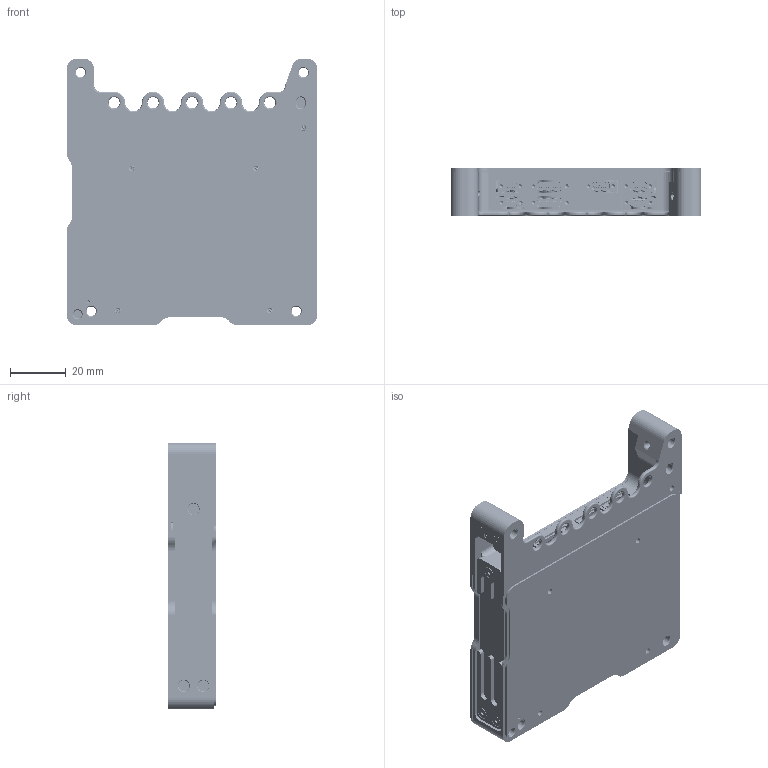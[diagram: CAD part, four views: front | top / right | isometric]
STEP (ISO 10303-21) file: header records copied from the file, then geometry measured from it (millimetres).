
FILE_DESCRIPTION (( 'STEP AP214' ), '1' );
FILE_NAME ('105602_External_Rev A.STEP', '2024-01-26T12:55:55', ( '' ), ( '' ), 'SwSTEP 2.0', 'SolidWorks 2021', '' );
FILE_SCHEMA (( 'AUTOMOTIVE_DESIGN' ));
Length unit declared in the file: millimetre
Products named in the file (15): 104815_Threads; Nano-D 9pin socket; 104584_Detailed; 104611_HeliCoil-Plus-41300020005-Colly; Nano-D 15pin plug; 104429_Marked; 104670_79914___2__6-mattssons; 104675; Nano-D 15pin socket; Nano-D 25pin socket; 105602_External_Rev A; 105601; 104436; 104433_Clean; 104425
Assembly tree (35 placements, depth 4):
  105602_External_Rev A
    104675
      104429_Marked
        104436
        104611_HeliCoil-Plus-41300020005-Colly  x9
      104425
        Nano-D 25pin socket  x2
        Nano-D 15pin socket  x2
        Nano-D 15pin plug
        Nano-D 9pin socket  x2
      104584_Detailed  x4
      104433_Clean
      104815_Threads  x3
    104433_Clean
    104670_79914___2__6-mattssons  x5
    105601
Bounding box: 90.17 x 17.2 x 95.89 mm (x, y, z)
Volume: 32700 mm3; surface area: 51968.6 mm2
Topology: 32 solids, 45 shells, 6250 faces, 16357 edges, 10715 vertices
Faces by surface type: plane 2803, cylinder 1378, bspline 1116, cone 529, torus 424
Full cylindrical faces by diameter (mm): 0.254 x354, 0.305 x98, 0.457 x98, 0.498 x15, 0.572 x15, 1 x3, 1.191 x84, 1.6 x2, 1.75 x3, 2 x114, 2.1 x7, 2.4 x8, 2.5 x1, 3 x2, 3.4 x8, 3.8 x3, 4 x16, 6 x2, 20 x1
Entity records: 232153 total; most frequent: CARTESIAN_POINT 120336, ORIENTED_EDGE 20176, DIRECTION 16178, EDGE_CURVE 10088, VERTEX_POINT 7174, LINE 5914, VECTOR 5914, EDGE_LOOP 5292
